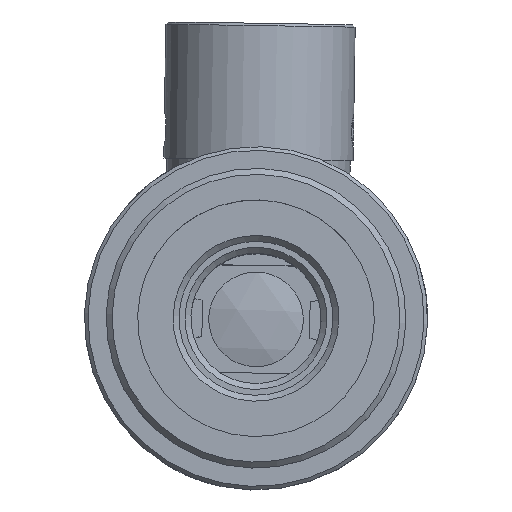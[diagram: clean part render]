
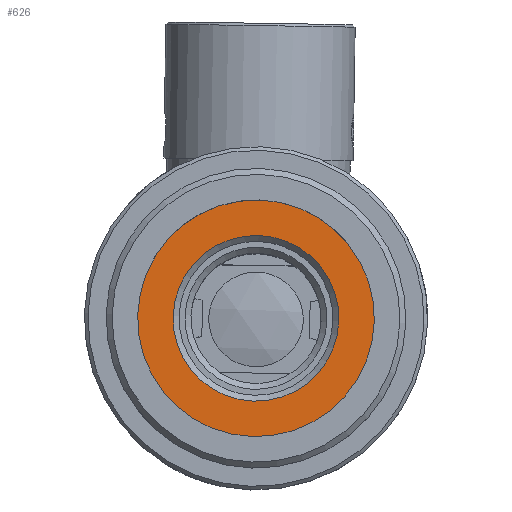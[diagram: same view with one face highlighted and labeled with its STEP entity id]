
A CAD part, top view. The second image highlights one B-rep face of the part: STEP entity #626.
In plain terms, the highlighted planar face has unit normal (0, 0, 1).
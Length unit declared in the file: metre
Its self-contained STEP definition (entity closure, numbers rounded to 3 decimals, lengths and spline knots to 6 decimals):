
#626=ADVANCED_FACE('NONE',(#1530,#1531),#1532,.F.);
#1530=FACE_BOUND('',#2891,.T.);
#1531=FACE_OUTER_BOUND('',#2892,.T.);
#1532=PLANE('',#2893);
#2891=EDGE_LOOP('',(#4647));
#2892=EDGE_LOOP('',(#4648));
#2893=AXIS2_PLACEMENT_3D('',#4649,#4650,#4651);
#4647=ORIENTED_EDGE('',*,*,#6800,.T.);
#4648=ORIENTED_EDGE('',*,*,#6814,.F.);
#4649=CARTESIAN_POINT('',(-0.001842,0.008423,0.0559));
#4650=DIRECTION('',(0.,0.0,-1.0));
#4651=DIRECTION('',(-1.0,0.0,0.));
#6800=EDGE_CURVE('NONE',#7989,#7989,#7990,.T.);
#6814=EDGE_CURVE('NONE',#8012,#8012,#8013,.T.);
#7989=VERTEX_POINT('',#10122);
#7990=CIRCLE('',#10123,0.007);
#8012=VERTEX_POINT('',#10145);
#8013=CIRCLE('',#10146,0.01);
#10122=CARTESIAN_POINT('',(-0.012052,0.001733,0.0559));
#10123=AXIS2_PLACEMENT_3D('',#11864,#11865,#11866);
#10145=CARTESIAN_POINT('',(-0.014838,0.002845,0.0559));
#10146=AXIS2_PLACEMENT_3D('',#11891,#11892,#11893);
#11864=CARTESIAN_POINT('',(-0.005551,-0.000864,0.0559));
#11865=DIRECTION('',(0.,0.0,-1.0));
#11866=DIRECTION('',(-0.929,0.371,0.));
#11891=CARTESIAN_POINT('',(-0.005551,-0.000864,0.0559));
#11892=DIRECTION('',(0.,0.,-1.0));
#11893=DIRECTION('',(-0.929,0.371,0.));
